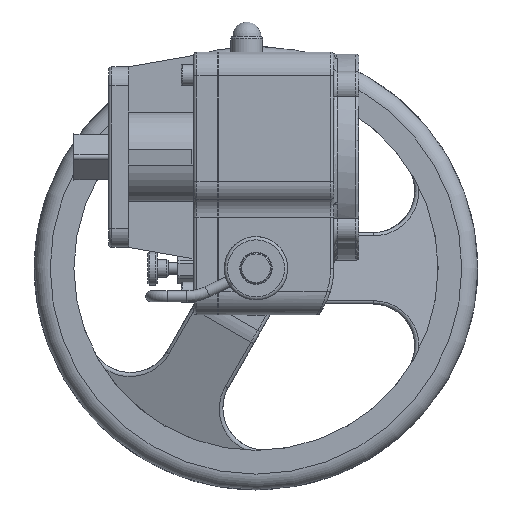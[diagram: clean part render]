
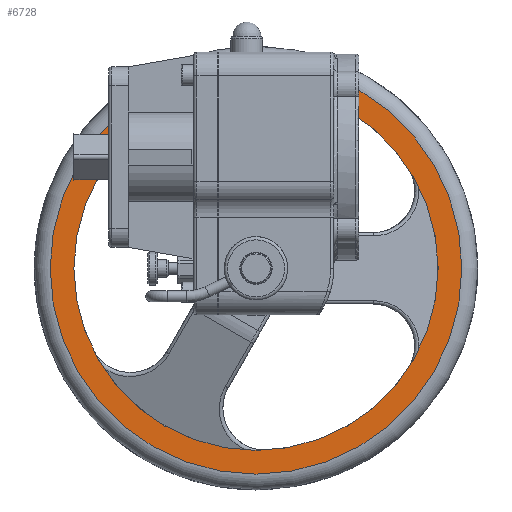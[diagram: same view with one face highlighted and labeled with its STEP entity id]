
A CAD part, left-side view. The second image highlights one B-rep face of the part: STEP entity #6728.
In plain terms, the highlighted planar face has unit normal (-1, 0, 0).
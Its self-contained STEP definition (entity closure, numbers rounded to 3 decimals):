
#6728=ADVANCED_FACE('',(#18308,#18310),#18312,.T.);
#18308=FACE_BOUND('',#18309,.T.);
#18309=EDGE_LOOP('',(#27212));
#18310=FACE_BOUND('',#18311,.T.);
#18311=EDGE_LOOP('',(#27213));
#18312=PLANE('',#18313);
#18313=AXIS2_PLACEMENT_3D('',#18314,#18315,#18316);
#18314=CARTESIAN_POINT('',(184.,-75.009,-70.202));
#18315=DIRECTION('',(-1.,0.,0.));
#18316=DIRECTION('',(0.,0.,1.));
#27212=ORIENTED_EDGE('',*,*,#30457,.F.);
#27213=ORIENTED_EDGE('',*,*,#30398,.T.);
#30398=EDGE_CURVE('',#33994,#33994,#33995,.T.);
#30457=EDGE_CURVE('',#34096,#34096,#34097,.T.);
#33994=VERTEX_POINT('',#52038);
#33995=CIRCLE('',#52039,115.);
#34096=VERTEX_POINT('',#53331);
#34097=CIRCLE('',#53332,130.);
#52038=CARTESIAN_POINT('',(184.,179.991,-70.202));
#52039=AXIS2_PLACEMENT_3D('',#52040,#52041,#52042);
#52040=CARTESIAN_POINT('',(184.,64.991,-70.202));
#52041=DIRECTION('',(1.,0.,0.));
#52042=DIRECTION('',(0.,1.,0.));
#53331=CARTESIAN_POINT('',(184.,64.991,59.798));
#53332=AXIS2_PLACEMENT_3D('',#53333,#53334,#53335);
#53333=CARTESIAN_POINT('',(184.,64.991,-70.202));
#53334=DIRECTION('',(1.,0.,0.));
#53335=DIRECTION('',(0.,0.,1.));
